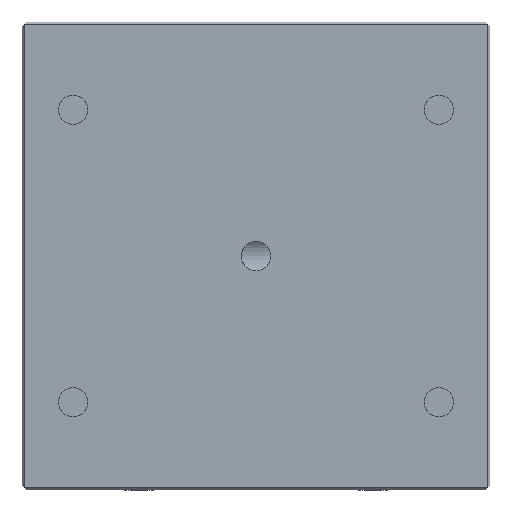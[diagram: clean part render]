
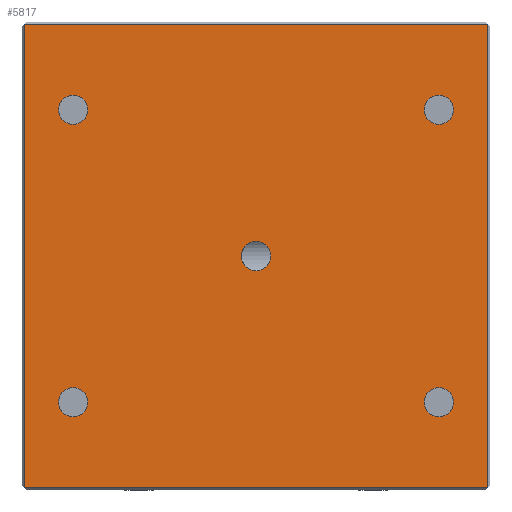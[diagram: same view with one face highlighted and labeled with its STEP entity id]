
A CAD part, front view. The second image highlights one B-rep face of the part: STEP entity #5817.
In plain terms, the highlighted planar face has unit normal (0, -1, 0).
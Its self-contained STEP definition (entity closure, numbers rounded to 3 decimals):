
#70 = CARTESIAN_POINT ( 'NONE',  ( 95., 0., 95. ) ) ;
#218 = CARTESIAN_POINT ( 'NONE',  ( -95., 0., -95. ) ) ;
#317 = AXIS2_PLACEMENT_3D ( 'NONE', #4435, #8351, #9757 ) ;
#460 = AXIS2_PLACEMENT_3D ( 'NONE', #15836, #13608, #13531 ) ;
#612 = AXIS2_PLACEMENT_3D ( 'NONE', #11046, #8420, #13382 ) ;
#726 = CARTESIAN_POINT ( 'NONE',  ( 96., 0., 96. ) ) ;
#934 = FACE_BOUND ( 'NONE', #5213, .T. ) ;
#1335 = EDGE_LOOP ( 'NONE', ( #9487, #13087 ) ) ;
#1738 = AXIS2_PLACEMENT_3D ( 'NONE', #16683, #3509, #8588 ) ;
#1980 = FACE_BOUND ( 'NONE', #2416, .T. ) ;
#1988 = EDGE_CURVE ( 'NONE', #12683, #6900, #3026, .T. ) ;
#2063 = VECTOR ( 'NONE', #12280, 1000. ) ;
#2138 = CARTESIAN_POINT ( 'NONE',  ( 75., 0., 66. ) ) ;
#2397 = CARTESIAN_POINT ( 'NONE',  ( 0., 0., 6. ) ) ;
#2416 = EDGE_LOOP ( 'NONE', ( #4840, #6186 ) ) ;
#2724 = CARTESIAN_POINT ( 'NONE',  ( -75., 0., -54. ) ) ;
#2894 = VERTEX_POINT ( 'NONE', #9609 ) ;
#2946 = CIRCLE ( 'NONE', #460, 6. ) ;
#3026 = LINE ( 'NONE', #16042, #2063 ) ;
#3039 = VECTOR ( 'NONE', #4358, 1000. ) ;
#3134 = CIRCLE ( 'NONE', #3990, 6. ) ;
#3223 = VERTEX_POINT ( 'NONE', #8326 ) ;
#3509 = DIRECTION ( 'NONE',  ( 0., 1., 0. ) ) ;
#3860 = PLANE ( 'NONE',  #17132 ) ;
#3930 = EDGE_LOOP ( 'NONE', ( #14120, #10238 ) ) ;
#3990 = AXIS2_PLACEMENT_3D ( 'NONE', #9923, #16625, #10003 ) ;
#4124 = VERTEX_POINT ( 'NONE', #8083 ) ;
#4358 = DIRECTION ( 'NONE',  ( -1., 0., 0. ) ) ;
#4435 = CARTESIAN_POINT ( 'NONE',  ( 75., 0., -60. ) ) ;
#4507 = CARTESIAN_POINT ( 'NONE',  ( 75., 0., 60. ) ) ;
#4653 = CIRCLE ( 'NONE', #14340, 6. ) ;
#4840 = ORIENTED_EDGE ( 'NONE', *, *, #11268, .F. ) ;
#4870 = CARTESIAN_POINT ( 'NONE',  ( 96., 0., -95. ) ) ;
#4946 = LINE ( 'NONE', #4870, #6026 ) ;
#4987 = ORIENTED_EDGE ( 'NONE', *, *, #1988, .T. ) ;
#5083 = DIRECTION ( 'NONE',  ( 0., 0., 1. ) ) ;
#5110 = VERTEX_POINT ( 'NONE', #2397 ) ;
#5213 = EDGE_LOOP ( 'NONE', ( #12886, #6262 ) ) ;
#5245 = ORIENTED_EDGE ( 'NONE', *, *, #9619, .T. ) ;
#5274 = CARTESIAN_POINT ( 'NONE',  ( 95., 0., -95. ) ) ;
#5426 = ORIENTED_EDGE ( 'NONE', *, *, #15835, .T. ) ;
#5479 = CIRCLE ( 'NONE', #6307, 6. ) ;
#5676 = ORIENTED_EDGE ( 'NONE', *, *, #6849, .T. ) ;
#5817 = ADVANCED_FACE ( 'NONE', ( #6670, #12006, #934, #16837, #1980, #10002 ), #3860, .F. ) ;
#5998 = DIRECTION ( 'NONE',  ( 0., 0., 1. ) ) ;
#6026 = VECTOR ( 'NONE', #16987, 1000. ) ;
#6186 = ORIENTED_EDGE ( 'NONE', *, *, #16363, .F. ) ;
#6209 = DIRECTION ( 'NONE',  ( 0., 1., 0. ) ) ;
#6242 = DIRECTION ( 'NONE',  ( 0., 1., 0. ) ) ;
#6262 = ORIENTED_EDGE ( 'NONE', *, *, #11587, .T. ) ;
#6307 = AXIS2_PLACEMENT_3D ( 'NONE', #14072, #6242, #5998 ) ;
#6670 = FACE_BOUND ( 'NONE', #1335, .T. ) ;
#6849 = EDGE_CURVE ( 'NONE', #6900, #9118, #4946, .T. ) ;
#6900 = VERTEX_POINT ( 'NONE', #218 ) ;
#7286 = VERTEX_POINT ( 'NONE', #14000 ) ;
#7500 = EDGE_CURVE ( 'NONE', #3223, #8943, #7559, .T. ) ;
#7559 = CIRCLE ( 'NONE', #317, 6. ) ;
#7597 = VERTEX_POINT ( 'NONE', #2138 ) ;
#7944 = EDGE_CURVE ( 'NONE', #7286, #11942, #10671, .T. ) ;
#8083 = CARTESIAN_POINT ( 'NONE',  ( -75., 0., -66. ) ) ;
#8271 = CARTESIAN_POINT ( 'NONE',  ( -75., 0., 54. ) ) ;
#8326 = CARTESIAN_POINT ( 'NONE',  ( 75., 0., -54. ) ) ;
#8351 = DIRECTION ( 'NONE',  ( 0., 1., 0. ) ) ;
#8420 = DIRECTION ( 'NONE',  ( 0., 1., 0. ) ) ;
#8547 = CIRCLE ( 'NONE', #17100, 6. ) ;
#8588 = DIRECTION ( 'NONE',  ( 0., 0., 1. ) ) ;
#8757 = LINE ( 'NONE', #12812, #11565 ) ;
#8858 = ORIENTED_EDGE ( 'NONE', *, *, #14507, .T. ) ;
#8879 = VERTEX_POINT ( 'NONE', #70 ) ;
#8943 = VERTEX_POINT ( 'NONE', #16369 ) ;
#9089 = VERTEX_POINT ( 'NONE', #2724 ) ;
#9118 = VERTEX_POINT ( 'NONE', #5274 ) ;
#9130 = EDGE_CURVE ( 'NONE', #2894, #7597, #15380, .T. ) ;
#9211 = EDGE_LOOP ( 'NONE', ( #5676, #5245, #8858, #4987 ) ) ;
#9222 = EDGE_CURVE ( 'NONE', #11942, #7286, #14848, .T. ) ;
#9460 = CARTESIAN_POINT ( 'NONE',  ( 75., 0., 60. ) ) ;
#9487 = ORIENTED_EDGE ( 'NONE', *, *, #7944, .T. ) ;
#9609 = CARTESIAN_POINT ( 'NONE',  ( 75., 0., 54. ) ) ;
#9619 = EDGE_CURVE ( 'NONE', #9118, #8879, #8757, .T. ) ;
#9757 = DIRECTION ( 'NONE',  ( 0., 0., 1. ) ) ;
#9923 = CARTESIAN_POINT ( 'NONE',  ( 0., 0., 0. ) ) ;
#10002 = FACE_OUTER_BOUND ( 'NONE', #9211, .T. ) ;
#10003 = DIRECTION ( 'NONE',  ( 0., 0., -1. ) ) ;
#10170 = CARTESIAN_POINT ( 'NONE',  ( -75., 0., 60. ) ) ;
#10238 = ORIENTED_EDGE ( 'NONE', *, *, #9130, .T. ) ;
#10469 = AXIS2_PLACEMENT_3D ( 'NONE', #10170, #6209, #14382 ) ;
#10671 = CIRCLE ( 'NONE', #1738, 6. ) ;
#10856 = DIRECTION ( 'NONE',  ( 0., 1., 0. ) ) ;
#11046 = CARTESIAN_POINT ( 'NONE',  ( -75., 0., -60. ) ) ;
#11147 = EDGE_CURVE ( 'NONE', #4124, #9089, #4653, .T. ) ;
#11226 = DIRECTION ( 'NONE',  ( 0., 1., 0. ) ) ;
#11244 = EDGE_LOOP ( 'NONE', ( #5426, #13289 ) ) ;
#11264 = EDGE_CURVE ( 'NONE', #7597, #2894, #8547, .T. ) ;
#11268 = EDGE_CURVE ( 'NONE', #16968, #5110, #2946, .T. ) ;
#11550 = DIRECTION ( 'NONE',  ( 0., 0., 1. ) ) ;
#11553 = CARTESIAN_POINT ( 'NONE',  ( -95., 0., 95. ) ) ;
#11565 = VECTOR ( 'NONE', #11550, 1000. ) ;
#11587 = EDGE_CURVE ( 'NONE', #8943, #3223, #5479, .T. ) ;
#11942 = VERTEX_POINT ( 'NONE', #8271 ) ;
#12006 = FACE_BOUND ( 'NONE', #3930, .T. ) ;
#12280 = DIRECTION ( 'NONE',  ( 0., 0., -1. ) ) ;
#12588 = DIRECTION ( 'NONE',  ( 0., 0., 1. ) ) ;
#12657 = DIRECTION ( 'NONE',  ( 0., 1., 0. ) ) ;
#12683 = VERTEX_POINT ( 'NONE', #11553 ) ;
#12812 = CARTESIAN_POINT ( 'NONE',  ( 95., 0., 96. ) ) ;
#12886 = ORIENTED_EDGE ( 'NONE', *, *, #7500, .T. ) ;
#13087 = ORIENTED_EDGE ( 'NONE', *, *, #9222, .T. ) ;
#13289 = ORIENTED_EDGE ( 'NONE', *, *, #11147, .T. ) ;
#13382 = DIRECTION ( 'NONE',  ( 0., 0., 1. ) ) ;
#13415 = CIRCLE ( 'NONE', #612, 6. ) ;
#13531 = DIRECTION ( 'NONE',  ( 0., 0., -1. ) ) ;
#13608 = DIRECTION ( 'NONE',  ( 0., -1., 0. ) ) ;
#14000 = CARTESIAN_POINT ( 'NONE',  ( -75., 0., 66. ) ) ;
#14072 = CARTESIAN_POINT ( 'NONE',  ( 75., 0., -60. ) ) ;
#14120 = ORIENTED_EDGE ( 'NONE', *, *, #11264, .T. ) ;
#14263 = CARTESIAN_POINT ( 'NONE',  ( 0., 0., -6. ) ) ;
#14280 = AXIS2_PLACEMENT_3D ( 'NONE', #4507, #11226, #12588 ) ;
#14340 = AXIS2_PLACEMENT_3D ( 'NONE', #16763, #12657, #15230 ) ;
#14382 = DIRECTION ( 'NONE',  ( 0., 0., 1. ) ) ;
#14507 = EDGE_CURVE ( 'NONE', #8879, #12683, #16465, .T. ) ;
#14655 = DIRECTION ( 'NONE',  ( 0., 0., 1. ) ) ;
#14848 = CIRCLE ( 'NONE', #10469, 6. ) ;
#15230 = DIRECTION ( 'NONE',  ( 0., 0., 1. ) ) ;
#15380 = CIRCLE ( 'NONE', #14280, 6. ) ;
#15835 = EDGE_CURVE ( 'NONE', #9089, #4124, #13415, .T. ) ;
#15836 = CARTESIAN_POINT ( 'NONE',  ( 0., 0., 0. ) ) ;
#16042 = CARTESIAN_POINT ( 'NONE',  ( -95., 0., 96. ) ) ;
#16363 = EDGE_CURVE ( 'NONE', #5110, #16968, #3134, .T. ) ;
#16369 = CARTESIAN_POINT ( 'NONE',  ( 75., 0., -66. ) ) ;
#16465 = LINE ( 'NONE', #16542, #3039 ) ;
#16542 = CARTESIAN_POINT ( 'NONE',  ( 96., 0., 95. ) ) ;
#16625 = DIRECTION ( 'NONE',  ( 0., -1., 0. ) ) ;
#16683 = CARTESIAN_POINT ( 'NONE',  ( -75., 0., 60. ) ) ;
#16763 = CARTESIAN_POINT ( 'NONE',  ( -75., 0., -60. ) ) ;
#16837 = FACE_BOUND ( 'NONE', #11244, .T. ) ;
#16968 = VERTEX_POINT ( 'NONE', #14263 ) ;
#16987 = DIRECTION ( 'NONE',  ( 1., 0., 0. ) ) ;
#17060 = DIRECTION ( 'NONE',  ( 0., 1., 0. ) ) ;
#17100 = AXIS2_PLACEMENT_3D ( 'NONE', #9460, #10856, #14655 ) ;
#17132 = AXIS2_PLACEMENT_3D ( 'NONE', #726, #17060, #5083 ) ;
